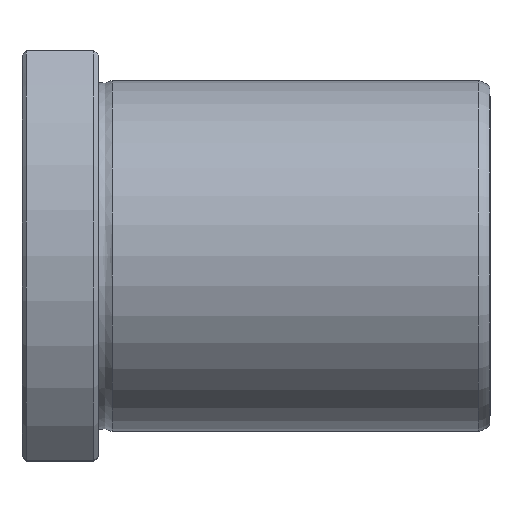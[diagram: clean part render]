
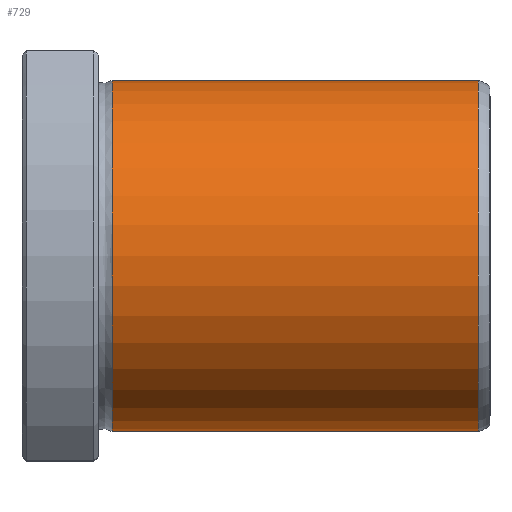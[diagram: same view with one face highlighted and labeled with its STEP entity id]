
A CAD part, top view. The second image highlights one B-rep face of the part: STEP entity #729.
In plain terms, the highlighted cylindrical face has radius 30 mm (diameter 60 mm), a full revolution.
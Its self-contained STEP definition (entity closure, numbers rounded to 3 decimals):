
#695=CARTESIAN_POINT('',(78.016,0.0,30.));
#696=VERTEX_POINT('',#695);
#697=CARTESIAN_POINT('',(78.016,0.0,0.0));
#698=DIRECTION('',(-1.0,0.0,0.0));
#699=DIRECTION('',(0.0,0.0,1.0));
#700=AXIS2_PLACEMENT_3D('',#697,#698,#699);
#701=CIRCLE('',#700,30.);
#702=EDGE_CURVE('',#696,#696,#701,.T.);
#710=CARTESIAN_POINT('',(46.708,0.0,0.0));
#711=DIRECTION('',(-1.0,0.0,0.0));
#712=DIRECTION('',(0.0,0.0,1.0));
#713=AXIS2_PLACEMENT_3D('',#710,#711,#712);
#714=CYLINDRICAL_SURFACE('',#713,30.);
#715=CARTESIAN_POINT('',(15.4,0.0,30.0));
#716=VERTEX_POINT('',#715);
#717=CARTESIAN_POINT('',(15.4,0.0,0.0));
#718=DIRECTION('',(-1.0,0.0,0.0));
#719=DIRECTION('',(0.0,0.0,1.0));
#720=AXIS2_PLACEMENT_3D('',#717,#718,#719);
#721=CIRCLE('',#720,30.0);
#722=EDGE_CURVE('',#716,#716,#721,.T.);
#723=ORIENTED_EDGE('',*,*,#722,.F.);
#724=EDGE_LOOP('',(#723));
#725=FACE_OUTER_BOUND('',#724,.T.);
#726=ORIENTED_EDGE('',*,*,#702,.T.);
#727=EDGE_LOOP('',(#726));
#728=FACE_BOUND('',#727,.T.);
#729=ADVANCED_FACE('',(#725,#728),#714,.T.);
